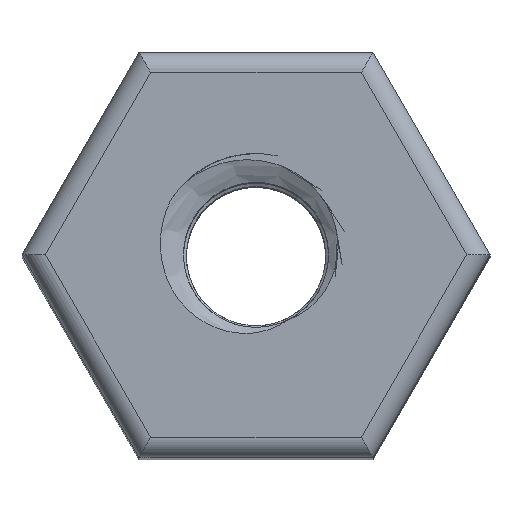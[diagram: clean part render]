
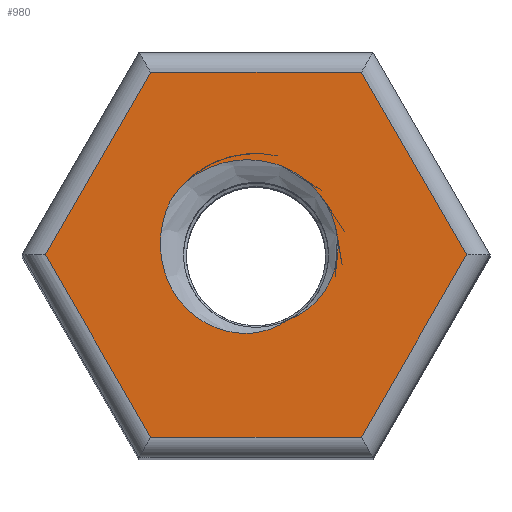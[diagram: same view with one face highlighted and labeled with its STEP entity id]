
A CAD part, top view. The second image highlights one B-rep face of the part: STEP entity #980.
In plain terms, the highlighted planar face has unit normal (0, 0, 1).
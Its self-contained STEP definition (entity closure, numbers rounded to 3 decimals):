
#50 = EDGE_CURVE ( 'NONE', #9593, #9394, #5254, .T. ) ;
#389 = ORIENTED_EDGE ( 'NONE', *, *, #50, .T. ) ;
#822 = EDGE_LOOP ( 'NONE', ( #389, #4990, #4955, #4876, #3869, #3015 ) ) ;
#980 = ADVANCED_FACE ( 'NONE', ( #9107, #9108 ), #9109, .T. ) ;
#1212 = CARTESIAN_POINT ( 'NONE',  ( -1.268, 0.801, 20. ) ) ;
#1213 = LINE ( 'NONE', #1214, #1215 ) ;
#1214 = CARTESIAN_POINT ( 'NONE',  ( 1.732, -2.7, 20. ) ) ;
#1215 = VECTOR ( 'NONE', #1216, 1000. ) ;
#1216 = DIRECTION ( 'NONE',  ( 1., 0., 0. ) ) ;
#1276 = LINE ( 'NONE', #1277, #1278 ) ;
#1277 = CARTESIAN_POINT ( 'NONE',  ( 1.472, 2.85, 20. ) ) ;
#1278 = VECTOR ( 'NONE', #1279, 1000. ) ;
#1279 = DIRECTION ( 'NONE',  ( -0.5, 0.866, 0. ) ) ;
#1422 = LINE ( 'NONE', #1423, #1424 ) ;
#1423 = CARTESIAN_POINT ( 'NONE',  ( -1.732, 2.7, 20. ) ) ;
#1424 = VECTOR ( 'NONE', #1425, 1000. ) ;
#1425 = DIRECTION ( 'NONE',  ( -1., 0., 0. ) ) ;
#2864 = CARTESIAN_POINT ( 'NONE',  ( 0.483, -0.958, 20. ) ) ;
#2921 = CARTESIAN_POINT ( 'NONE',  ( -1.061, 1.061, 20. ) ) ;
#2922 = CARTESIAN_POINT ( 'NONE',  ( -3.118, 0., 20. ) ) ;
#3015 = ORIENTED_EDGE ( 'NONE', *, *, #5135, .T. ) ;
#3325 = CARTESIAN_POINT ( 'NONE',  ( -1.559, 2.7, 20. ) ) ;
#3329 = VERTEX_POINT ( 'NONE', #9529 ) ;
#3353 = CARTESIAN_POINT ( 'NONE',  ( -1.559, -2.7, 20. ) ) ;
#3381 = VERTEX_POINT ( 'NONE', #1212 ) ;
#3457 = LINE ( 'NONE', #3458, #3459 ) ;
#3458 = CARTESIAN_POINT ( 'NONE',  ( -1.472, -2.85, 20. ) ) ;
#3459 = VECTOR ( 'NONE', #3460, 1000. ) ;
#3460 = DIRECTION ( 'NONE',  ( 0.5, -0.866, 0. ) ) ;
#3533 = EDGE_CURVE ( 'NONE', #4334, #3329, #1276, .T. ) ;
#3869 = ORIENTED_EDGE ( 'NONE', *, *, #3533, .T. ) ;
#4334 = VERTEX_POINT ( 'NONE', #5253 ) ;
#4538 = EDGE_CURVE ( 'NONE', #4932, #4334, #6738, .T. ) ;
#4876 = ORIENTED_EDGE ( 'NONE', *, *, #4538, .T. ) ;
#4932 = VERTEX_POINT ( 'NONE', #9445 ) ;
#4942 = EDGE_CURVE ( 'NONE', #4970, #4932, #1213, .T. ) ;
#4955 = ORIENTED_EDGE ( 'NONE', *, *, #4942, .T. ) ;
#4970 = VERTEX_POINT ( 'NONE', #3353 ) ;
#4975 = EDGE_CURVE ( 'NONE', #9394, #4970, #3457, .T. ) ;
#4990 = ORIENTED_EDGE ( 'NONE', *, *, #4975, .T. ) ;
#5058 = EDGE_CURVE ( 'NONE', #9377, #7158, #5258, .T. ) ;
#5081 = ORIENTED_EDGE ( 'NONE', *, *, #5058, .T. ) ;
#5099 = ORIENTED_EDGE ( 'NONE', *, *, #8576, .F. ) ;
#5122 = EDGE_LOOP ( 'NONE', ( #5099, #5081, #6541 ) ) ;
#5135 = EDGE_CURVE ( 'NONE', #3329, #9593, #1422, .T. ) ;
#5253 = CARTESIAN_POINT ( 'NONE',  ( 3.118, 0., 20. ) ) ;
#5254 = LINE ( 'NONE', #5255, #5256 ) ;
#5255 = CARTESIAN_POINT ( 'NONE',  ( -3.204, -0.15, 20. ) ) ;
#5256 = VECTOR ( 'NONE', #5257, 1000. ) ;
#5257 = DIRECTION ( 'NONE',  ( -0.5, -0.866, 0. ) ) ;
#5258 = B_SPLINE_CURVE_WITH_KNOTS ( 'NONE', 3,
 ( #5259, #5260, #5261, #5262, #5263, #5264, #5265, #5267, #5268, #5269, #5270, #5271, #5272, #5273, #5274, #5275, #5276, #5277, #5278, #5279, #5280, #5281, #5282, #5283, #5284, #5285 ),
 .UNSPECIFIED., .F., .F.,
 ( 4, 2, 2, 2, 2, 2, 2, 2, 2, 2, 2, 2, 4 ),
 ( 0., 0.001, 0.001, 0.001, 0.002, 0.002, 0.003, 0.003, 0.003, 0.003, 0.004, 0.004, 0.004 ),
 .UNSPECIFIED. ) ;
#5259 = CARTESIAN_POINT ( 'NONE',  ( -1.061, 1.061, 20. ) ) ;
#5260 = CARTESIAN_POINT ( 'NONE',  ( -0.918, 1.183, 20. ) ) ;
#5261 = CARTESIAN_POINT ( 'NONE',  ( -0.754, 1.276, 20. ) ) ;
#5262 = CARTESIAN_POINT ( 'NONE',  ( -0.489, 1.364, 20. ) ) ;
#5263 = CARTESIAN_POINT ( 'NONE',  ( -0.398, 1.384, 20. ) ) ;
#5264 = CARTESIAN_POINT ( 'NONE',  ( -0.214, 1.408, 20. ) ) ;
#5265 = CARTESIAN_POINT ( 'NONE',  ( -0.119, 1.41, 20. ) ) ;
#5267 = CARTESIAN_POINT ( 'NONE',  ( 0.159, 1.391, 20. ) ) ;
#5268 = CARTESIAN_POINT ( 'NONE',  ( 0.344, 1.341, 20. ) ) ;
#5269 = CARTESIAN_POINT ( 'NONE',  ( 0.673, 1.173, 20. ) ) ;
#5270 = CARTESIAN_POINT ( 'NONE',  ( 0.821, 1.052, 20. ) ) ;
#5271 = CARTESIAN_POINT ( 'NONE',  ( 0.994, 0.834, 20. ) ) ;
#5272 = CARTESIAN_POINT ( 'NONE',  ( 1.045, 0.753, 20. ) ) ;
#5273 = CARTESIAN_POINT ( 'NONE',  ( 1.127, 0.586, 20. ) ) ;
#5274 = CARTESIAN_POINT ( 'NONE',  ( 1.158, 0.499, 20. ) ) ;
#5275 = CARTESIAN_POINT ( 'NONE',  ( 1.203, 0.317, 20. ) ) ;
#5276 = CARTESIAN_POINT ( 'NONE',  ( 1.215, 0.224, 20. ) ) ;
#5277 = CARTESIAN_POINT ( 'NONE',  ( 1.217, 0.039, 20. ) ) ;
#5278 = CARTESIAN_POINT ( 'NONE',  ( 1.206, -0.055, 20. ) ) ;
#5279 = CARTESIAN_POINT ( 'NONE',  ( 1.143, -0.328, 20. ) ) ;
#5280 = CARTESIAN_POINT ( 'NONE',  ( 1.056, -0.499, 20. ) ) ;
#5281 = CARTESIAN_POINT ( 'NONE',  ( 0.875, -0.711, 20. ) ) ;
#5282 = CARTESIAN_POINT ( 'NONE',  ( 0.805, -0.775, 20. ) ) ;
#5283 = CARTESIAN_POINT ( 'NONE',  ( 0.654, -0.883, 20. ) ) ;
#5284 = CARTESIAN_POINT ( 'NONE',  ( 0.572, -0.926, 20. ) ) ;
#5285 = CARTESIAN_POINT ( 'NONE',  ( 0.483, -0.958, 20. ) ) ;
#6202 = EDGE_CURVE ( 'NONE', #7158, #3381, #8716, .T. ) ;
#6541 = ORIENTED_EDGE ( 'NONE', *, *, #6202, .T. ) ;
#6738 = LINE ( 'NONE', #6741, #6742 ) ;
#6741 = CARTESIAN_POINT ( 'NONE',  ( 3.204, 0.15, 20. ) ) ;
#6742 = VECTOR ( 'NONE', #6743, 1000. ) ;
#6743 = DIRECTION ( 'NONE',  ( 0.5, 0.866, 0. ) ) ;
#7158 = VERTEX_POINT ( 'NONE', #2864 ) ;
#8576 = EDGE_CURVE ( 'NONE', #9377, #3381, #9144, .T. ) ;
#8716 = B_SPLINE_CURVE_WITH_KNOTS ( 'NONE', 3,
 ( #8717, #8718, #8719, #8720, #8721, #8722, #8723, #8724, #8725, #8726, #8727, #8728, #8729, #8730, #8731, #8732, #8733, #8734 ),
 .UNSPECIFIED., .F., .F.,
 ( 4, 2, 2, 2, 2, 2, 2, 2, 4 ),
 ( 0., 0., 0.001, 0.001, 0.002, 0.002, 0.003, 0.003, 0.003 ),
 .UNSPECIFIED. ) ;
#8717 = CARTESIAN_POINT ( 'NONE',  ( 0.483, -0.958, 20. ) ) ;
#8718 = CARTESIAN_POINT ( 'NONE',  ( 0.368, -1.041, 20. ) ) ;
#8719 = CARTESIAN_POINT ( 'NONE',  ( 0.239, -1.1, 20. ) ) ;
#8720 = CARTESIAN_POINT ( 'NONE',  ( -0.036, -1.166, 20. ) ) ;
#8721 = CARTESIAN_POINT ( 'NONE',  ( -0.179, -1.172, 20. ) ) ;
#8722 = CARTESIAN_POINT ( 'NONE',  ( -0.457, -1.131, 20. ) ) ;
#8723 = CARTESIAN_POINT ( 'NONE',  ( -0.593, -1.087, 20. ) ) ;
#8724 = CARTESIAN_POINT ( 'NONE',  ( -0.842, -0.958, 20. ) ) ;
#8725 = CARTESIAN_POINT ( 'NONE',  ( -0.957, -0.872, 20. ) ) ;
#8726 = CARTESIAN_POINT ( 'NONE',  ( -1.15, -0.669, 20. ) ) ;
#8727 = CARTESIAN_POINT ( 'NONE',  ( -1.23, -0.55, 20. ) ) ;
#8728 = CARTESIAN_POINT ( 'NONE',  ( -1.347, -0.295, 20. ) ) ;
#8729 = CARTESIAN_POINT ( 'NONE',  ( -1.385, -0.157, 20. ) ) ;
#8730 = CARTESIAN_POINT ( 'NONE',  ( -1.421, 0.12, 20. ) ) ;
#8731 = CARTESIAN_POINT ( 'NONE',  ( -1.418, 0.263, 20. ) ) ;
#8732 = CARTESIAN_POINT ( 'NONE',  ( -1.373, 0.54, 20. ) ) ;
#8733 = CARTESIAN_POINT ( 'NONE',  ( -1.33, 0.674, 20. ) ) ;
#8734 = CARTESIAN_POINT ( 'NONE',  ( -1.268, 0.801, 20. ) ) ;
#9107 = FACE_OUTER_BOUND ( 'NONE', #822, .T. ) ;
#9108 = FACE_BOUND ( 'NONE', #5122, .T. ) ;
#9109 = PLANE ( 'NONE',  #9110 ) ;
#9110 = AXIS2_PLACEMENT_3D ( 'NONE', #9111, #9112, #9113 ) ;
#9111 = CARTESIAN_POINT ( 'NONE',  ( 3.464, 0., 20. ) ) ;
#9112 = DIRECTION ( 'NONE',  ( 0., 0., 1. ) ) ;
#9113 = DIRECTION ( 'NONE',  ( 1., 0., 0. ) ) ;
#9144 = CIRCLE ( 'NONE', #9145, 1.5 ) ;
#9145 = AXIS2_PLACEMENT_3D ( 'NONE', #9146, #9147, #9148 ) ;
#9146 = CARTESIAN_POINT ( 'NONE',  ( 0., 0., 20. ) ) ;
#9147 = DIRECTION ( 'NONE',  ( 0., 0., 1. ) ) ;
#9148 = DIRECTION ( 'NONE',  ( 1., 0., 0. ) ) ;
#9377 = VERTEX_POINT ( 'NONE', #2921 ) ;
#9394 = VERTEX_POINT ( 'NONE', #2922 ) ;
#9445 = CARTESIAN_POINT ( 'NONE',  ( 1.559, -2.7, 20. ) ) ;
#9529 = CARTESIAN_POINT ( 'NONE',  ( 1.559, 2.7, 20. ) ) ;
#9593 = VERTEX_POINT ( 'NONE', #3325 ) ;
